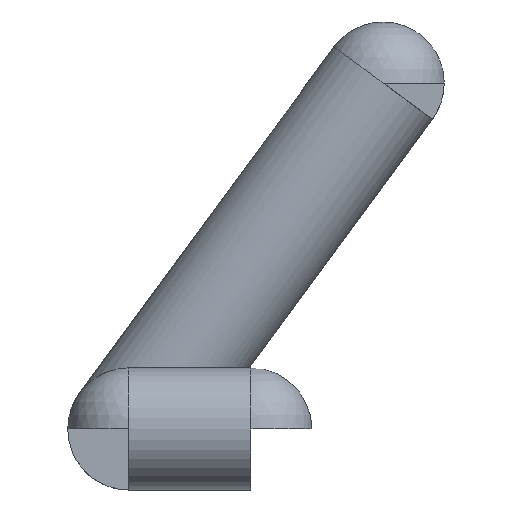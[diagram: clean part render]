
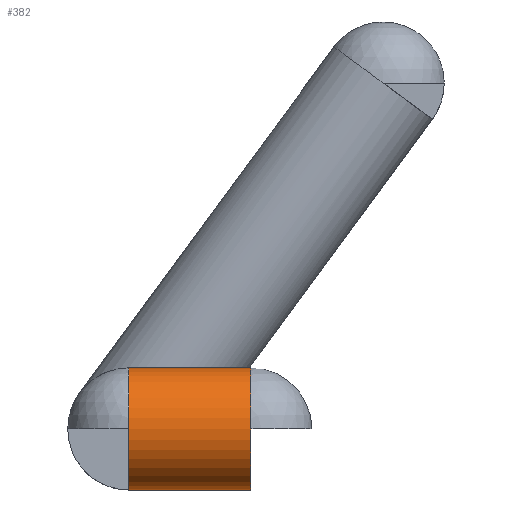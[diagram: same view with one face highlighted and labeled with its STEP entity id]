
A CAD part, front view. The second image highlights one B-rep face of the part: STEP entity #382.
In plain terms, the highlighted cylindrical face has radius 0.6 mm (diameter 1.2 mm), a full revolution.
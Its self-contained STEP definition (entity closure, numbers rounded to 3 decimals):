
#24 = VERTEX_POINT('',#25);
#25 = CARTESIAN_POINT('',(8.5,45.4,16.9));
#33 = SPHERICAL_SURFACE('',#34,0.6);
#34 = AXIS2_PLACEMENT_3D('',#35,#36,#37);
#35 = CARTESIAN_POINT('',(8.5,46.,16.9));
#36 = DIRECTION('',(0.,0.,1.));
#37 = DIRECTION('',(1.,0.,-0.));
#57 = EDGE_CURVE('',#24,#58,#60,.T.);
#58 = VERTEX_POINT('',#59);
#59 = CARTESIAN_POINT('',(8.5,46.,17.5));
#60 = SURFACE_CURVE('',#61,(#66,#73),.PCURVE_S1.);
#61 = CIRCLE('',#62,0.6);
#62 = AXIS2_PLACEMENT_3D('',#63,#64,#65);
#63 = CARTESIAN_POINT('',(8.5,46.,16.9));
#64 = DIRECTION('',(-1.,0.,0.));
#65 = DIRECTION('',(0.,0.,-1.));
#66 = PCURVE('',#33,#67);
#67 = DEFINITIONAL_REPRESENTATION('',(#68),#72);
#68 = LINE('',#69,#70);
#69 = CARTESIAN_POINT('',(4.712,-1.571));
#70 = VECTOR('',#71,1.);
#71 = DIRECTION('',(0.,1.));
#72 = ( GEOMETRIC_REPRESENTATION_CONTEXT(2) 
PARAMETRIC_REPRESENTATION_CONTEXT() REPRESENTATION_CONTEXT('2D SPACE',''
  ) );
#73 = PCURVE('',#74,#79);
#74 = CYLINDRICAL_SURFACE('',#75,0.6);
#75 = AXIS2_PLACEMENT_3D('',#76,#77,#78);
#76 = CARTESIAN_POINT('',(9.7,46.,16.9));
#77 = DIRECTION('',(-1.,0.,0.));
#78 = DIRECTION('',(0.,0.,-1.));
#79 = DEFINITIONAL_REPRESENTATION('',(#80),#84);
#80 = LINE('',#81,#82);
#81 = CARTESIAN_POINT('',(0.,1.2));
#82 = VECTOR('',#83,1.);
#83 = DIRECTION('',(1.,0.));
#84 = ( GEOMETRIC_REPRESENTATION_CONTEXT(2) 
PARAMETRIC_REPRESENTATION_CONTEXT() REPRESENTATION_CONTEXT('2D SPACE',''
  ) );
#101 = CYLINDRICAL_SURFACE('',#102,0.6);
#102 = AXIS2_PLACEMENT_3D('',#103,#104,#105);
#103 = CARTESIAN_POINT('',(8.5,46.,16.9));
#104 = DIRECTION('',(0.,1.,0.));
#105 = DIRECTION('',(0.,-0.,1.));
#132 = PLANE('',#133);
#133 = AXIS2_PLACEMENT_3D('',#134,#135,#136);
#134 = CARTESIAN_POINT('',(8.5,46.,16.9));
#135 = DIRECTION('',(-1.,0.,0.));
#136 = DIRECTION('',(0.,0.,-1.));
#171 = EDGE_CURVE('',#58,#172,#174,.T.);
#172 = VERTEX_POINT('',#173);
#173 = CARTESIAN_POINT('',(8.5,46.,16.3));
#174 = SURFACE_CURVE('',#175,(#180,#193),.PCURVE_S1.);
#175 = ELLIPSE('',#176,0.849,0.6);
#176 = AXIS2_PLACEMENT_3D('',#177,#178,#179);
#177 = CARTESIAN_POINT('',(8.5,46.,16.9));
#178 = DIRECTION('',(-0.707,0.707,0.));
#179 = DIRECTION('',(-0.707,-0.707,0.));
#180 = PCURVE('',#101,#181);
#181 = DEFINITIONAL_REPRESENTATION('',(#182),#192);
#182 = B_SPLINE_CURVE_WITH_KNOTS('',8,(#183,#184,#185,#186,#187,#188,
    #189,#190,#191),.UNSPECIFIED.,.F.,.F.,(9,9),(1.571,
    4.712),.PIECEWISE_BEZIER_KNOTS.);
#183 = CARTESIAN_POINT('',(0.,0.));
#184 = CARTESIAN_POINT('',(0.393,0.236));
#185 = CARTESIAN_POINT('',(0.785,0.471));
#186 = CARTESIAN_POINT('',(1.178,0.651));
#187 = CARTESIAN_POINT('',(1.571,0.721));
#188 = CARTESIAN_POINT('',(1.963,0.651));
#189 = CARTESIAN_POINT('',(2.356,0.471));
#190 = CARTESIAN_POINT('',(2.749,0.236));
#191 = CARTESIAN_POINT('',(3.142,0.));
#192 = ( GEOMETRIC_REPRESENTATION_CONTEXT(2) 
PARAMETRIC_REPRESENTATION_CONTEXT() REPRESENTATION_CONTEXT('2D SPACE',''
  ) );
#193 = PCURVE('',#74,#194);
#194 = DEFINITIONAL_REPRESENTATION('',(#195),#205);
#195 = B_SPLINE_CURVE_WITH_KNOTS('',8,(#196,#197,#198,#199,#200,#201,
    #202,#203,#204),.UNSPECIFIED.,.F.,.F.,(9,9),(1.571,
    4.712),.PIECEWISE_BEZIER_KNOTS.);
#196 = CARTESIAN_POINT('',(3.142,1.2));
#197 = CARTESIAN_POINT('',(3.534,0.964));
#198 = CARTESIAN_POINT('',(3.927,0.729));
#199 = CARTESIAN_POINT('',(4.32,0.549));
#200 = CARTESIAN_POINT('',(4.712,0.479));
#201 = CARTESIAN_POINT('',(5.105,0.549));
#202 = CARTESIAN_POINT('',(5.498,0.729));
#203 = CARTESIAN_POINT('',(5.89,0.964));
#204 = CARTESIAN_POINT('',(6.283,1.2));
#205 = ( GEOMETRIC_REPRESENTATION_CONTEXT(2) 
PARAMETRIC_REPRESENTATION_CONTEXT() REPRESENTATION_CONTEXT('2D SPACE',''
  ) );
#382 = ADVANCED_FACE('',(#383),#74,.T.);
#383 = FACE_BOUND('',#384,.T.);
#384 = EDGE_LOOP('',(#385,#407,#430,#459,#487,#510,#532,#533,#534));
#385 = ORIENTED_EDGE('',*,*,#386,.F.);
#386 = EDGE_CURVE('',#172,#24,#387,.T.);
#387 = SURFACE_CURVE('',#388,(#393,#400),.PCURVE_S1.);
#388 = CIRCLE('',#389,0.6);
#389 = AXIS2_PLACEMENT_3D('',#390,#391,#392);
#390 = CARTESIAN_POINT('',(8.5,46.,16.9));
#391 = DIRECTION('',(-1.,0.,0.));
#392 = DIRECTION('',(0.,0.,-1.));
#393 = PCURVE('',#74,#394);
#394 = DEFINITIONAL_REPRESENTATION('',(#395),#399);
#395 = LINE('',#396,#397);
#396 = CARTESIAN_POINT('',(0.,1.2));
#397 = VECTOR('',#398,1.);
#398 = DIRECTION('',(1.,0.));
#399 = ( GEOMETRIC_REPRESENTATION_CONTEXT(2) 
PARAMETRIC_REPRESENTATION_CONTEXT() REPRESENTATION_CONTEXT('2D SPACE',''
  ) );
#400 = PCURVE('',#132,#401);
#401 = DEFINITIONAL_REPRESENTATION('',(#402),#406);
#402 = CIRCLE('',#403,0.6);
#403 = AXIS2_PLACEMENT_2D('',#404,#405);
#404 = CARTESIAN_POINT('',(0.,0.));
#405 = DIRECTION('',(1.,0.));
#406 = ( GEOMETRIC_REPRESENTATION_CONTEXT(2) 
PARAMETRIC_REPRESENTATION_CONTEXT() REPRESENTATION_CONTEXT('2D SPACE',''
  ) );
#407 = ORIENTED_EDGE('',*,*,#408,.F.);
#408 = EDGE_CURVE('',#409,#172,#411,.T.);
#409 = VERTEX_POINT('',#410);
#410 = CARTESIAN_POINT('',(9.7,46.,16.3));
#411 = SEAM_CURVE('',#412,(#416,#423),.PCURVE_S1.);
#412 = LINE('',#413,#414);
#413 = CARTESIAN_POINT('',(9.7,46.,16.3));
#414 = VECTOR('',#415,1.);
#415 = DIRECTION('',(-1.,0.,0.));
#416 = PCURVE('',#74,#417);
#417 = DEFINITIONAL_REPRESENTATION('',(#418),#422);
#418 = LINE('',#419,#420);
#419 = CARTESIAN_POINT('',(6.283,-0.));
#420 = VECTOR('',#421,1.);
#421 = DIRECTION('',(0.,1.));
#422 = ( GEOMETRIC_REPRESENTATION_CONTEXT(2) 
PARAMETRIC_REPRESENTATION_CONTEXT() REPRESENTATION_CONTEXT('2D SPACE',''
  ) );
#423 = PCURVE('',#74,#424);
#424 = DEFINITIONAL_REPRESENTATION('',(#425),#429);
#425 = LINE('',#426,#427);
#426 = CARTESIAN_POINT('',(0.,-0.));
#427 = VECTOR('',#428,1.);
#428 = DIRECTION('',(0.,1.));
#429 = ( GEOMETRIC_REPRESENTATION_CONTEXT(2) 
PARAMETRIC_REPRESENTATION_CONTEXT() REPRESENTATION_CONTEXT('2D SPACE',''
  ) );
#430 = ORIENTED_EDGE('',*,*,#431,.T.);
#431 = EDGE_CURVE('',#409,#432,#434,.T.);
#432 = VERTEX_POINT('',#433);
#433 = CARTESIAN_POINT('',(9.7,45.4,16.9));
#434 = SURFACE_CURVE('',#435,(#440,#447),.PCURVE_S1.);
#435 = CIRCLE('',#436,0.6);
#436 = AXIS2_PLACEMENT_3D('',#437,#438,#439);
#437 = CARTESIAN_POINT('',(9.7,46.,16.9));
#438 = DIRECTION('',(-1.,0.,0.));
#439 = DIRECTION('',(0.,0.,-1.));
#440 = PCURVE('',#74,#441);
#441 = DEFINITIONAL_REPRESENTATION('',(#442),#446);
#442 = LINE('',#443,#444);
#443 = CARTESIAN_POINT('',(0.,0.));
#444 = VECTOR('',#445,1.);
#445 = DIRECTION('',(1.,0.));
#446 = ( GEOMETRIC_REPRESENTATION_CONTEXT(2) 
PARAMETRIC_REPRESENTATION_CONTEXT() REPRESENTATION_CONTEXT('2D SPACE',''
  ) );
#447 = PCURVE('',#448,#453);
#448 = PLANE('',#449);
#449 = AXIS2_PLACEMENT_3D('',#450,#451,#452);
#450 = CARTESIAN_POINT('',(9.7,46.,16.9));
#451 = DIRECTION('',(-1.,0.,0.));
#452 = DIRECTION('',(0.,0.,-1.));
#453 = DEFINITIONAL_REPRESENTATION('',(#454),#458);
#454 = CIRCLE('',#455,0.6);
#455 = AXIS2_PLACEMENT_2D('',#456,#457);
#456 = CARTESIAN_POINT('',(0.,0.));
#457 = DIRECTION('',(1.,0.));
#458 = ( GEOMETRIC_REPRESENTATION_CONTEXT(2) 
PARAMETRIC_REPRESENTATION_CONTEXT() REPRESENTATION_CONTEXT('2D SPACE',''
  ) );
#459 = ORIENTED_EDGE('',*,*,#460,.T.);
#460 = EDGE_CURVE('',#432,#461,#463,.T.);
#461 = VERTEX_POINT('',#462);
#462 = CARTESIAN_POINT('',(9.7,46.,17.5));
#463 = SURFACE_CURVE('',#464,(#469,#476),.PCURVE_S1.);
#464 = CIRCLE('',#465,0.6);
#465 = AXIS2_PLACEMENT_3D('',#466,#467,#468);
#466 = CARTESIAN_POINT('',(9.7,46.,16.9));
#467 = DIRECTION('',(-1.,0.,0.));
#468 = DIRECTION('',(0.,0.,-1.));
#469 = PCURVE('',#74,#470);
#470 = DEFINITIONAL_REPRESENTATION('',(#471),#475);
#471 = LINE('',#472,#473);
#472 = CARTESIAN_POINT('',(0.,0.));
#473 = VECTOR('',#474,1.);
#474 = DIRECTION('',(1.,0.));
#475 = ( GEOMETRIC_REPRESENTATION_CONTEXT(2) 
PARAMETRIC_REPRESENTATION_CONTEXT() REPRESENTATION_CONTEXT('2D SPACE',''
  ) );
#476 = PCURVE('',#477,#482);
#477 = SPHERICAL_SURFACE('',#478,0.6);
#478 = AXIS2_PLACEMENT_3D('',#479,#480,#481);
#479 = CARTESIAN_POINT('',(9.7,46.,16.9));
#480 = DIRECTION('',(0.,0.,1.));
#481 = DIRECTION('',(1.,0.,-0.));
#482 = DEFINITIONAL_REPRESENTATION('',(#483),#486);
#483 = B_SPLINE_CURVE_WITH_KNOTS('',1,(#484,#485),.UNSPECIFIED.,.F.,.F.,
  (2,2),(1.571,3.142),.PIECEWISE_BEZIER_KNOTS.);
#484 = CARTESIAN_POINT('',(4.712,0.));
#485 = CARTESIAN_POINT('',(4.712,1.571));
#486 = ( GEOMETRIC_REPRESENTATION_CONTEXT(2) 
PARAMETRIC_REPRESENTATION_CONTEXT() REPRESENTATION_CONTEXT('2D SPACE',''
  ) );
#487 = ORIENTED_EDGE('',*,*,#488,.T.);
#488 = EDGE_CURVE('',#461,#489,#491,.T.);
#489 = VERTEX_POINT('',#490);
#490 = CARTESIAN_POINT('',(9.7,46.6,16.9));
#491 = SURFACE_CURVE('',#492,(#497,#504),.PCURVE_S1.);
#492 = CIRCLE('',#493,0.6);
#493 = AXIS2_PLACEMENT_3D('',#494,#495,#496);
#494 = CARTESIAN_POINT('',(9.7,46.,16.9));
#495 = DIRECTION('',(-1.,0.,0.));
#496 = DIRECTION('',(0.,0.,-1.));
#497 = PCURVE('',#74,#498);
#498 = DEFINITIONAL_REPRESENTATION('',(#499),#503);
#499 = LINE('',#500,#501);
#500 = CARTESIAN_POINT('',(0.,0.));
#501 = VECTOR('',#502,1.);
#502 = DIRECTION('',(1.,0.));
#503 = ( GEOMETRIC_REPRESENTATION_CONTEXT(2) 
PARAMETRIC_REPRESENTATION_CONTEXT() REPRESENTATION_CONTEXT('2D SPACE',''
  ) );
#504 = PCURVE('',#477,#505);
#505 = DEFINITIONAL_REPRESENTATION('',(#506),#509);
#506 = B_SPLINE_CURVE_WITH_KNOTS('',1,(#507,#508),.UNSPECIFIED.,.F.,.F.,
  (2,2),(3.142,4.712),.PIECEWISE_BEZIER_KNOTS.);
#507 = CARTESIAN_POINT('',(7.854,1.571));
#508 = CARTESIAN_POINT('',(7.854,0.));
#509 = ( GEOMETRIC_REPRESENTATION_CONTEXT(2) 
PARAMETRIC_REPRESENTATION_CONTEXT() REPRESENTATION_CONTEXT('2D SPACE',''
  ) );
#510 = ORIENTED_EDGE('',*,*,#511,.T.);
#511 = EDGE_CURVE('',#489,#409,#512,.T.);
#512 = SURFACE_CURVE('',#513,(#518,#525),.PCURVE_S1.);
#513 = CIRCLE('',#514,0.6);
#514 = AXIS2_PLACEMENT_3D('',#515,#516,#517);
#515 = CARTESIAN_POINT('',(9.7,46.,16.9));
#516 = DIRECTION('',(-1.,0.,0.));
#517 = DIRECTION('',(0.,0.,-1.));
#518 = PCURVE('',#74,#519);
#519 = DEFINITIONAL_REPRESENTATION('',(#520),#524);
#520 = LINE('',#521,#522);
#521 = CARTESIAN_POINT('',(0.,0.));
#522 = VECTOR('',#523,1.);
#523 = DIRECTION('',(1.,0.));
#524 = ( GEOMETRIC_REPRESENTATION_CONTEXT(2) 
PARAMETRIC_REPRESENTATION_CONTEXT() REPRESENTATION_CONTEXT('2D SPACE',''
  ) );
#525 = PCURVE('',#448,#526);
#526 = DEFINITIONAL_REPRESENTATION('',(#527),#531);
#527 = CIRCLE('',#528,0.6);
#528 = AXIS2_PLACEMENT_2D('',#529,#530);
#529 = CARTESIAN_POINT('',(0.,0.));
#530 = DIRECTION('',(1.,0.));
#531 = ( GEOMETRIC_REPRESENTATION_CONTEXT(2) 
PARAMETRIC_REPRESENTATION_CONTEXT() REPRESENTATION_CONTEXT('2D SPACE',''
  ) );
#532 = ORIENTED_EDGE('',*,*,#408,.T.);
#533 = ORIENTED_EDGE('',*,*,#171,.F.);
#534 = ORIENTED_EDGE('',*,*,#57,.F.);
